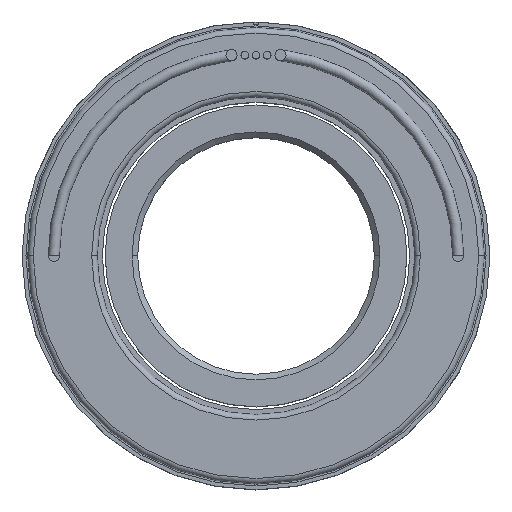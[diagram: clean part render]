
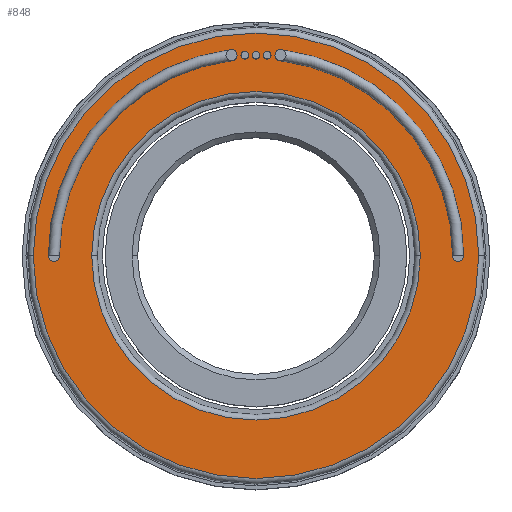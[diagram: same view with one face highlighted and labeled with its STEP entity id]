
A CAD part, top view. The second image highlights one B-rep face of the part: STEP entity #848.
In plain terms, the highlighted planar face has unit normal (0, 0, 1).
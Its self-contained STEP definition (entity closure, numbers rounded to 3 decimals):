
#24 = CIRCLE ( 'NONE', #233, 50.8 ) ;
#79 = VERTEX_POINT ( 'NONE', #460 ) ;
#81 = CARTESIAN_POINT ( 'NONE',  ( 47.33, 0., 26.67 ) ) ;
#98 = CARTESIAN_POINT ( 'NONE',  ( 44.79, 0., 26.67 ) ) ;
#146 = ORIENTED_EDGE ( 'NONE', *, *, #1168, .F. ) ;
#157 = EDGE_CURVE ( 'NONE', #2546, #79, #2123, .T. ) ;
#170 = EDGE_LOOP ( 'NONE', ( #592, #146 ) ) ;
#233 = AXIS2_PLACEMENT_3D ( 'NONE', #676, #1351, #2218 ) ;
#289 = AXIS2_PLACEMENT_3D ( 'NONE', #1972, #2174, #1965 ) ;
#331 = EDGE_LOOP ( 'NONE', ( #2689, #412 ) ) ;
#337 = FACE_BOUND ( 'NONE', #331, .T. ) ;
#358 = ORIENTED_EDGE ( 'NONE', *, *, #1541, .T. ) ;
#372 = ORIENTED_EDGE ( 'NONE', *, *, #1065, .T. ) ;
#383 = DIRECTION ( 'NONE',  ( 0., 0., -1. ) ) ;
#412 = ORIENTED_EDGE ( 'NONE', *, *, #1720, .F. ) ;
#416 = FACE_BOUND ( 'NONE', #2728, .T. ) ;
#455 = VERTEX_POINT ( 'NONE', #475 ) ;
#460 = CARTESIAN_POINT ( 'NONE',  ( -50.8, 0., 26.67 ) ) ;
#468 = VERTEX_POINT ( 'NONE', #2706 ) ;
#475 = CARTESIAN_POINT ( 'NONE',  ( -47.33, 0., 26.67 ) ) ;
#533 = VERTEX_POINT ( 'NONE', #984 ) ;
#592 = ORIENTED_EDGE ( 'NONE', *, *, #1476, .F. ) ;
#657 = PLANE ( 'NONE',  #2030 ) ;
#676 = CARTESIAN_POINT ( 'NONE',  ( 0., 0., 26.67 ) ) ;
#690 = CIRCLE ( 'NONE', #289, 1.27 ) ;
#706 = DIRECTION ( 'NONE',  ( 1., 0., 0. ) ) ;
#751 = DIRECTION ( 'NONE',  ( 1., 0., 0. ) ) ;
#787 = CARTESIAN_POINT ( 'NONE',  ( -46.06, 0., 26.67 ) ) ;
#848 = ADVANCED_FACE ( 'NONE', ( #337, #1698, #416, #1035 ), #657, .T. ) ;
#869 = CIRCLE ( 'NONE', #1722, 1.27 ) ;
#895 = CARTESIAN_POINT ( 'NONE',  ( 46.06, 0., 26.67 ) ) ;
#921 = DIRECTION ( 'NONE',  ( 0., 0., 1. ) ) ;
#953 = CARTESIAN_POINT ( 'NONE',  ( 0., 0., 26.67 ) ) ;
#971 = CARTESIAN_POINT ( 'NONE',  ( 50.8, 0., 26.67 ) ) ;
#984 = CARTESIAN_POINT ( 'NONE',  ( -37.465, 0., 26.67 ) ) ;
#1035 = FACE_OUTER_BOUND ( 'NONE', #2674, .T. ) ;
#1065 = EDGE_CURVE ( 'NONE', #533, #468, #1668, .T. ) ;
#1135 = AXIS2_PLACEMENT_3D ( 'NONE', #953, #2289, #706 ) ;
#1168 = EDGE_CURVE ( 'NONE', #455, #1298, #869, .T. ) ;
#1195 = VERTEX_POINT ( 'NONE', #98 ) ;
#1249 = CARTESIAN_POINT ( 'NONE',  ( -44.79, 0., 26.67 ) ) ;
#1283 = DIRECTION ( 'NONE',  ( 1., 0., 0. ) ) ;
#1298 = VERTEX_POINT ( 'NONE', #1249 ) ;
#1324 = DIRECTION ( 'NONE',  ( 1., 0., 0. ) ) ;
#1332 = DIRECTION ( 'NONE',  ( 0., 0., 1. ) ) ;
#1351 = DIRECTION ( 'NONE',  ( 0., 0., 1. ) ) ;
#1358 = DIRECTION ( 'NONE',  ( 1., 0., 0. ) ) ;
#1399 = ORIENTED_EDGE ( 'NONE', *, *, #2746, .T. ) ;
#1415 = CARTESIAN_POINT ( 'NONE',  ( 0., 0., 26.67 ) ) ;
#1476 = EDGE_CURVE ( 'NONE', #1298, #455, #690, .T. ) ;
#1541 = EDGE_CURVE ( 'NONE', #468, #533, #2488, .T. ) ;
#1544 = CARTESIAN_POINT ( 'NONE',  ( 0., 0., 26.67 ) ) ;
#1556 = DIRECTION ( 'NONE',  ( 0., 0., 1. ) ) ;
#1668 = CIRCLE ( 'NONE', #1135, 37.465 ) ;
#1698 = FACE_BOUND ( 'NONE', #170, .T. ) ;
#1720 = EDGE_CURVE ( 'NONE', #1195, #2541, #2374, .T. ) ;
#1722 = AXIS2_PLACEMENT_3D ( 'NONE', #787, #1900, #751 ) ;
#1874 = CIRCLE ( 'NONE', #2061, 1.27 ) ;
#1900 = DIRECTION ( 'NONE',  ( 0., 0., 1. ) ) ;
#1931 = AXIS2_PLACEMENT_3D ( 'NONE', #1934, #383, #1283 ) ;
#1934 = CARTESIAN_POINT ( 'NONE',  ( 0., 0., 26.67 ) ) ;
#1965 = DIRECTION ( 'NONE',  ( 1., 0., 0. ) ) ;
#1972 = CARTESIAN_POINT ( 'NONE',  ( -46.06, 0., 26.67 ) ) ;
#2009 = CARTESIAN_POINT ( 'NONE',  ( 46.06, 0., 26.67 ) ) ;
#2030 = AXIS2_PLACEMENT_3D ( 'NONE', #1544, #1332, #1358 ) ;
#2061 = AXIS2_PLACEMENT_3D ( 'NONE', #895, #921, #2248 ) ;
#2109 = EDGE_CURVE ( 'NONE', #2541, #1195, #1874, .T. ) ;
#2123 = CIRCLE ( 'NONE', #2834, 50.8 ) ;
#2174 = DIRECTION ( 'NONE',  ( 0., 0., 1. ) ) ;
#2218 = DIRECTION ( 'NONE',  ( 1., 0., 0. ) ) ;
#2248 = DIRECTION ( 'NONE',  ( 1., 0., 0. ) ) ;
#2289 = DIRECTION ( 'NONE',  ( 0., 0., -1. ) ) ;
#2337 = AXIS2_PLACEMENT_3D ( 'NONE', #2009, #1556, #1324 ) ;
#2374 = CIRCLE ( 'NONE', #2337, 1.27 ) ;
#2482 = DIRECTION ( 'NONE',  ( 1., 0., 0. ) ) ;
#2488 = CIRCLE ( 'NONE', #1931, 37.465 ) ;
#2541 = VERTEX_POINT ( 'NONE', #81 ) ;
#2546 = VERTEX_POINT ( 'NONE', #971 ) ;
#2601 = ORIENTED_EDGE ( 'NONE', *, *, #157, .T. ) ;
#2674 = EDGE_LOOP ( 'NONE', ( #2601, #1399 ) ) ;
#2689 = ORIENTED_EDGE ( 'NONE', *, *, #2109, .F. ) ;
#2706 = CARTESIAN_POINT ( 'NONE',  ( 37.465, 0., 26.67 ) ) ;
#2708 = DIRECTION ( 'NONE',  ( 0., 0., 1. ) ) ;
#2728 = EDGE_LOOP ( 'NONE', ( #358, #372 ) ) ;
#2746 = EDGE_CURVE ( 'NONE', #79, #2546, #24, .T. ) ;
#2834 = AXIS2_PLACEMENT_3D ( 'NONE', #1415, #2708, #2482 ) ;
